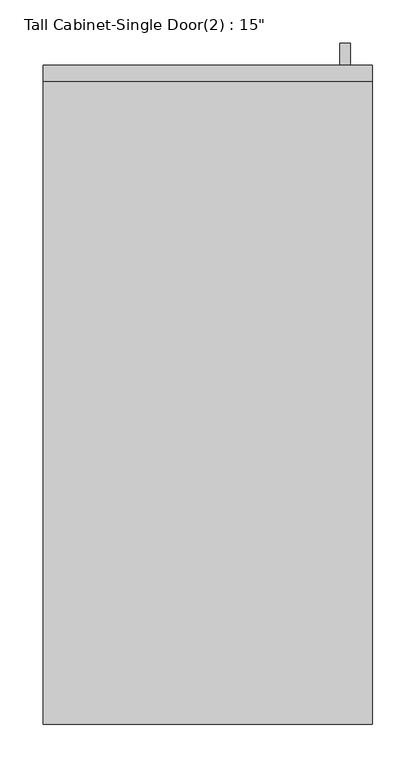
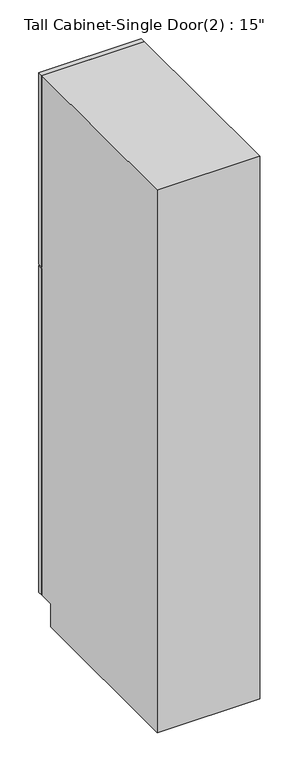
"""IFC4 building model written with IfcOpenShell, lengths in millimetres: furniture geometry."""

from ifc_helpers import new_model, si_unit, frame, origin, place, context, project, spatial, polyline, outline, extrude, faceted_brep, source, transform, mapped, element, save


def furniture_db22b6f1(model_context):
    return source(origin(), model_context, "Body", "SolidModel", [
        faceted_brep([(209.2377049, 742.95, 90.4875), (-171.7622951, 742.95, 90.4875), (-171.7622951, 742.95, 2133.6), (209.2377049, 742.95, 2133.6), (190.1877049, 742.95, 2114.55), (-152.7122951, 742.95, 2114.55), (-152.7122951, 742.95, 109.5375), (190.1877049, 742.95, 109.5375), (-171.7622951, 0.0, 2133.6), (-171.7622951, 0.0, 0.0), (209.2377049, 0.0, 0.0), (209.2377049, 0.0, 2133.6), (209.2377049, 685.8, 0.0), (209.2377049, 685.8, 90.4875), (-171.7622951, 685.8, 90.4875), (-171.7622951, 685.8, 0.0), (190.1877049, 19.05, 109.5375), (190.1877049, 19.05, 2114.55), (-152.7122951, 19.05, 109.5375), (-152.7122951, 19.05, 2114.55)], [[[0, 1, 2, 3], [4, 5, 6, 7]], [[8, 9, 10, 11]], [[3, 11, 10, 12, 13, 0]], [[2, 8, 11, 3]], [[1, 14, 15, 9, 8, 2]], [[0, 13, 14, 1]], [[7, 16, 17, 4]], [[6, 18, 16, 7]], [[5, 19, 18, 6]], [[4, 17, 19, 5]], [[10, 9, 15, 12]], [[15, 14, 13, 12]], [[16, 18, 19, 17]]]),
        extrude(outline(polyline([(183.8377049, 787.4), (183.8377049, 762.0), (171.3054733, 762.0), (171.3054733, 787.4), (183.8377049, 787.4)])), frame((0.0, 0.0, 1403.5480367), z_axis=(0.0, 0.0, 1.0), x_axis=(1.0, 0.0, 0.0)), (0.0, 0.0, 1.0), 101.6),
        extrude(outline(polyline([(183.8377049, 787.4), (183.8377049, 762.0), (171.3054733, 762.0), (171.3054733, 787.4), (183.8377049, 787.4)])), frame((0.0, 0.0, 1251.1480367), z_axis=(0.0, 0.0, 1.0), x_axis=(1.0, 0.0, 0.0)), (0.0, 0.0, 1.0), 101.6),
        extrude(outline(polyline([(145.7377049, 749.3), (145.7377049, 742.95), (-108.2622951, 742.95), (-108.2622951, 749.3), (145.7377049, 749.3)])), frame((0.0, 0.0, 1441.6480367), z_axis=(0.0, 0.0, 1.0), x_axis=(1.0, 0.0, 0.0)), (0.0, 0.0, 1.0), 628.4519633),
        extrude(outline(polyline([(145.7377049, 749.3), (145.7377049, 742.95), (-108.2622951, 742.95), (-108.2622951, 749.3), (145.7377049, 749.3)])), frame((0.0, 0.0, 153.9875), z_axis=(0.0, 0.0, 1.0), x_axis=(1.0, 0.0, 0.0)), (0.0, 0.0, 1.0), 1160.6605367),
        extrude(outline(polyline([(2133.6, 209.2377049), (2133.6, -171.7622951), (1381.3230367, -171.7622951), (1381.3230367, 209.2377049), (2133.6, 209.2377049)]), holes=[polyline([(2070.1, 145.7377049), (1441.6480367, 145.7377049), (1441.6480367, -108.2622951), (2070.1, -108.2622951), (2070.1, 145.7377049)])]), frame((0.0, 742.95, 0.0), z_axis=(0.0, 1.0, 0.0), x_axis=(0.0, 0.0, 1.0)), (0.0, 0.0, 1.0), 19.05),
        extrude(outline(polyline([(90.4875, 209.2377049), (1374.9730367, 209.2377049), (1374.9730367, -171.7622951), (90.4875, -171.7622951), (90.4875, 209.2377049)]), holes=[polyline([(1314.6480367, 145.7377049), (153.9875, 145.7377049), (153.9875, -108.2622951), (1314.6480367, -108.2622951), (1314.6480367, 145.7377049)])]), frame((0.0, 742.95, 0.0), z_axis=(0.0, 1.0, 0.0), x_axis=(0.0, 0.0, 1.0)), (0.0, 0.0, 1.0), 19.05),
    ])


if __name__ == "__main__":
    model = new_model("IFC4")
    model_context = context("Model", 3, world=origin())
    ifc_project = project(units=[si_unit("LENGTHUNIT", "METRE", prefix="MILLI")], contexts=[model_context])
    site = spatial("IfcSite", under=ifc_project)
    building = spatial("IfcBuilding", under=site)
    placement = place(None, origin())
    furniture_shape = furniture_db22b6f1(model_context)
    element("IfcFurniture", 1, ObjectType="Tall Cabinet-Single Door(2) : 15\"", at=placement, inside=building, context=model_context, shape_type="MappedRepresentation", body=[
        mapped(furniture_shape, transform((0.0, 0.0, 0.0), x_axis=(1.0, 0.0, 0.0), y_axis=(0.0, 1.0, 0.0), z_axis=(0.0, 0.0, 1.0))),
    ])
    save(model, "model.ifc")
